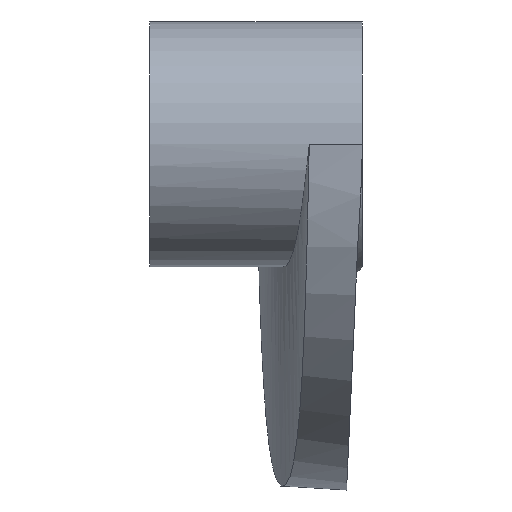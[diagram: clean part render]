
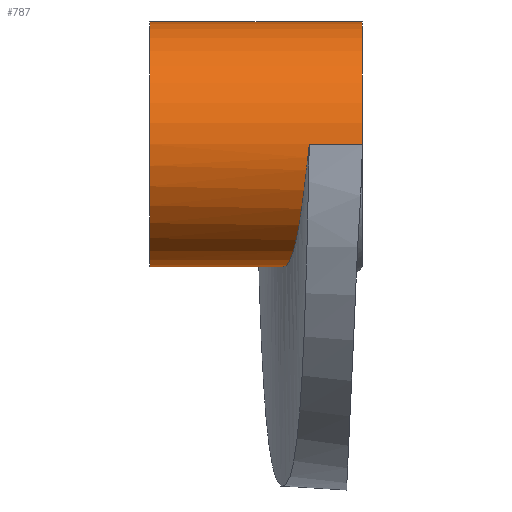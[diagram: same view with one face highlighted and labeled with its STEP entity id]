
A CAD part, left-side view. The second image highlights one B-rep face of the part: STEP entity #787.
In plain terms, the highlighted cylindrical face has radius 11.5 mm (diameter 23 mm), a partial arc.
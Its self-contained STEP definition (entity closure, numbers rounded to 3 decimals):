
#28 = CARTESIAN_POINT ( 'NONE',  ( -8.633, 5.958, -7.606 ) ) ;
#32 = CARTESIAN_POINT ( 'NONE',  ( -11.5, 5., 0. ) ) ;
#33 = ORIENTED_EDGE ( 'NONE', *, *, #124, .F. ) ;
#42 = FACE_OUTER_BOUND ( 'NONE', #794, .T. ) ;
#61 = VECTOR ( 'NONE', #748, 1000. ) ;
#73 = DIRECTION ( 'NONE',  ( 0., 1., 0. ) ) ;
#105 = CARTESIAN_POINT ( 'NONE',  ( 0., 20., 0. ) ) ;
#124 = EDGE_CURVE ( 'NONE', #955, #247, #350, .T. ) ;
#126 = CARTESIAN_POINT ( 'NONE',  ( -1.493, 7.223, -11.409 ) ) ;
#129 = CARTESIAN_POINT ( 'NONE',  ( -9.337, 5.816, -6.724 ) ) ;
#181 = CARTESIAN_POINT ( 'NONE',  ( 0., 7.5, -11.5 ) ) ;
#195 = B_SPLINE_CURVE_WITH_KNOTS ( 'NONE', 3,
 ( #558, #864, #768, #126, #870, #236, #968, #351, #1082, #454, #1188, #563, #1294, #666, #28, #772, #129, #875, #241, #972, #355, #1089, #457, #1193, #569, #1298, #669, #32 ),
 .UNSPECIFIED., .F., .F.,
 ( 4, 2, 2, 2, 2, 2, 2, 2, 2, 2, 2, 2, 2, 4 ),
 ( 0.018, 0.019, 0.02, 0.023, 0.024, 0.025, 0.027, 0.028, 0.029, 0.031, 0.032, 0.034, 0.035, 0.036 ),
 .UNSPECIFIED. ) ;
#201 = DIRECTION ( 'NONE',  ( 0., -1., 0. ) ) ;
#236 = CARTESIAN_POINT ( 'NONE',  ( -2.967, 6.957, -11.136 ) ) ;
#241 = CARTESIAN_POINT ( 'NONE',  ( -9.95, 5.68, -5.779 ) ) ;
#242 = VECTOR ( 'NONE', #1129, 1000. ) ;
#244 = AXIS2_PLACEMENT_3D ( 'NONE', #765, #345, #451 ) ;
#247 = VERTEX_POINT ( 'NONE', #969 ) ;
#267 = ORIENTED_EDGE ( 'NONE', *, *, #397, .F. ) ;
#294 = AXIS2_PLACEMENT_3D ( 'NONE', #105, #201, #1158 ) ;
#299 = CYLINDRICAL_SURFACE ( 'NONE', #294, 11.5 ) ;
#332 = EDGE_CURVE ( 'NONE', #841, #247, #1370, .T. ) ;
#338 = VERTEX_POINT ( 'NONE', #181 ) ;
#345 = DIRECTION ( 'NONE',  ( 0., 1., 0. ) ) ;
#350 = LINE ( 'NONE', #433, #61 ) ;
#351 = CARTESIAN_POINT ( 'NONE',  ( -4.721, 6.654, -10.493 ) ) ;
#355 = CARTESIAN_POINT ( 'NONE',  ( -10.471, 5.546, -4.77 ) ) ;
#397 = EDGE_CURVE ( 'NONE', #513, #955, #1050, .T. ) ;
#416 = VERTEX_POINT ( 'NONE', #1004 ) ;
#433 = CARTESIAN_POINT ( 'NONE',  ( 0., 20., 11.5 ) ) ;
#435 = CARTESIAN_POINT ( 'NONE',  ( 0., 20., 11.5 ) ) ;
#451 = DIRECTION ( 'NONE',  ( 0., 0., 1. ) ) ;
#454 = CARTESIAN_POINT ( 'NONE',  ( -5.732, 6.48, -9.977 ) ) ;
#457 = CARTESIAN_POINT ( 'NONE',  ( -11.127, 5.329, -3. ) ) ;
#487 = CARTESIAN_POINT ( 'NONE',  ( 0., 20., 0. ) ) ;
#490 = EDGE_CURVE ( 'NONE', #513, #338, #1087, .T. ) ;
#501 = CARTESIAN_POINT ( 'NONE',  ( 0., 20., -11.5 ) ) ;
#513 = VERTEX_POINT ( 'NONE', #708 ) ;
#534 = AXIS2_PLACEMENT_3D ( 'NONE', #487, #1224, #593 ) ;
#544 = EDGE_CURVE ( 'NONE', #841, #416, #738, .T. ) ;
#558 = CARTESIAN_POINT ( 'NONE',  ( 0., 7.5, -11.5 ) ) ;
#563 = CARTESIAN_POINT ( 'NONE',  ( -6.99, 6.261, -9.162 ) ) ;
#569 = CARTESIAN_POINT ( 'NONE',  ( -11.406, 5.164, -1.519 ) ) ;
#593 = DIRECTION ( 'NONE',  ( 0., 0., 1. ) ) ;
#599 = ORIENTED_EDGE ( 'NONE', *, *, #544, .F. ) ;
#666 = CARTESIAN_POINT ( 'NONE',  ( -8.377, 6.007, -7.888 ) ) ;
#669 = CARTESIAN_POINT ( 'NONE',  ( -11.5, 5.041, -0.381 ) ) ;
#708 = CARTESIAN_POINT ( 'NONE',  ( 0., 20., -11.5 ) ) ;
#738 = LINE ( 'NONE', #820, #1014 ) ;
#747 = CARTESIAN_POINT ( 'NONE',  ( -11.5, 0., 0. ) ) ;
#748 = DIRECTION ( 'NONE',  ( 0., -1., 0. ) ) ;
#765 = CARTESIAN_POINT ( 'NONE',  ( 0., 0., 0. ) ) ;
#768 = CARTESIAN_POINT ( 'NONE',  ( -0.745, 7.361, -11.482 ) ) ;
#772 = CARTESIAN_POINT ( 'NONE',  ( -9.113, 5.863, -7.025 ) ) ;
#787 = ADVANCED_FACE ( 'NONE', ( #42 ), #299, .T. ) ;
#794 = EDGE_LOOP ( 'NONE', ( #33, #267, #1226, #1056, #599, #1345 ) ) ;
#820 = CARTESIAN_POINT ( 'NONE',  ( -11.5, 20., 0. ) ) ;
#841 = VERTEX_POINT ( 'NONE', #747 ) ;
#864 = CARTESIAN_POINT ( 'NONE',  ( -0.372, 7.431, -11.5 ) ) ;
#870 = CARTESIAN_POINT ( 'NONE',  ( -1.866, 7.155, -11.354 ) ) ;
#875 = CARTESIAN_POINT ( 'NONE',  ( -9.756, 5.725, -6.101 ) ) ;
#955 = VERTEX_POINT ( 'NONE', #435 ) ;
#968 = CARTESIAN_POINT ( 'NONE',  ( -3.681, 6.833, -10.921 ) ) ;
#969 = CARTESIAN_POINT ( 'NONE',  ( 0., 0., 11.5 ) ) ;
#972 = CARTESIAN_POINT ( 'NONE',  ( -10.307, 5.591, -5.115 ) ) ;
#1004 = CARTESIAN_POINT ( 'NONE',  ( -11.5, 5., 0. ) ) ;
#1014 = VECTOR ( 'NONE', #73, 1000. ) ;
#1050 = CIRCLE ( 'NONE', #534, 11.5 ) ;
#1056 = ORIENTED_EDGE ( 'NONE', *, *, #1103, .T. ) ;
#1082 = CARTESIAN_POINT ( 'NONE',  ( -5.064, 6.595, -10.332 ) ) ;
#1087 = LINE ( 'NONE', #501, #242 ) ;
#1089 = CARTESIAN_POINT ( 'NONE',  ( -10.908, 5.414, -3.719 ) ) ;
#1103 = EDGE_CURVE ( 'NONE', #338, #416, #195, .T. ) ;
#1129 = DIRECTION ( 'NONE',  ( 0., -1., 0. ) ) ;
#1158 = DIRECTION ( 'NONE',  ( 0., 0., -1. ) ) ;
#1188 = CARTESIAN_POINT ( 'NONE',  ( -6.054, 6.424, -9.784 ) ) ;
#1193 = CARTESIAN_POINT ( 'NONE',  ( -11.349, 5.205, -1.893 ) ) ;
#1224 = DIRECTION ( 'NONE',  ( 0., 1., 0. ) ) ;
#1226 = ORIENTED_EDGE ( 'NONE', *, *, #490, .T. ) ;
#1294 = CARTESIAN_POINT ( 'NONE',  ( -7.571, 6.158, -8.689 ) ) ;
#1298 = CARTESIAN_POINT ( 'NONE',  ( -11.481, 5.082, -0.763 ) ) ;
#1345 = ORIENTED_EDGE ( 'NONE', *, *, #332, .T. ) ;
#1370 = CIRCLE ( 'NONE', #244, 11.5 ) ;
